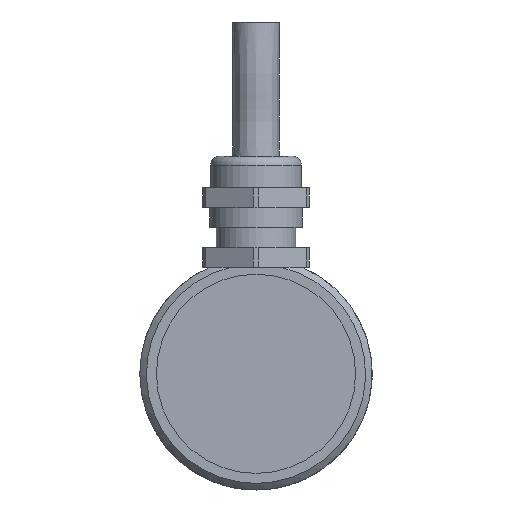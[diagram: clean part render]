
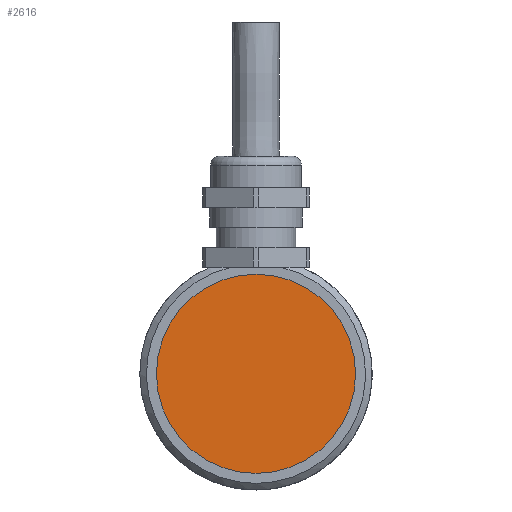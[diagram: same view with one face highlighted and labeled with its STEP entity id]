
A CAD part, left-side view. The second image highlights one B-rep face of the part: STEP entity #2616.
In plain terms, the highlighted planar face has unit normal (-1, 0, 0).
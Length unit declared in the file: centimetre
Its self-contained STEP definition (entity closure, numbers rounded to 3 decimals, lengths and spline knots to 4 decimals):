
#747=CIRCLE('',#2765,1.5);
#823=VERTEX_POINT('',#3414);
#1320=EDGE_CURVE('',#823,#823,#747,.T.);
#1658=ORIENTED_EDGE('',*,*,#1320,.T.);
#2283=EDGE_LOOP('',(#1658));
#2451=FACE_BOUND('',#2283,.T.);
#2616=ADVANCED_FACE('',(#2451),#8370,.T.);
#2765=AXIS2_PLACEMENT_3D('',#3413,#2964,#2965);
#2767=AXIS2_PLACEMENT_3D('',#3417,#2968,$);
#2964=DIRECTION('',(-1.,0.,0.));
#2965=DIRECTION('',(0.,0.,1.5));
#2968=DIRECTION('',(-1.,0.,0.));
#3413=CARTESIAN_POINT('',(0.1,0.,0.));
#3414=CARTESIAN_POINT('',(0.1,0.,1.5));
#3417=CARTESIAN_POINT('',(0.1,0.,0.));
#8370=PLANE('',#2767);
